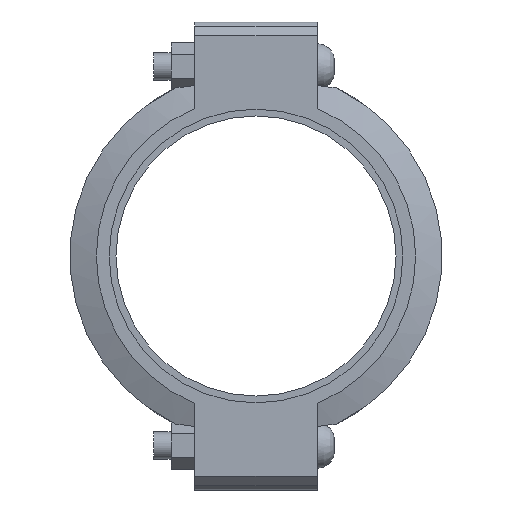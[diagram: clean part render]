
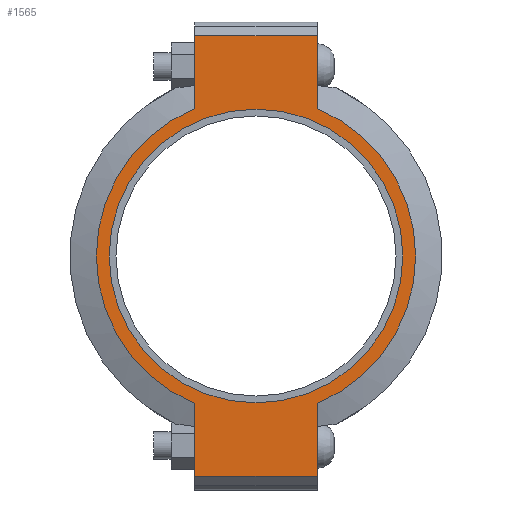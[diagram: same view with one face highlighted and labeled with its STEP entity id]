
A CAD part, left-side view. The second image highlights one B-rep face of the part: STEP entity #1565.
In plain terms, the highlighted planar face has unit normal (-1, 0, 0) as drawn and (0, 0, 1) by its records, which use the part's own axes.
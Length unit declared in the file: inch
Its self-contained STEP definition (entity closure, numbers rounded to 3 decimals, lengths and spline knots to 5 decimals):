
#136=LINE('',#2703,#225);
#147=LINE('',#2754,#236);
#153=LINE('',#2780,#242);
#155=LINE('',#2783,#244);
#156=LINE('',#2788,#245);
#157=LINE('',#2789,#246);
#225=VECTOR('',#2211,0.3937);
#236=VECTOR('',#2242,0.3937);
#242=VECTOR('',#2260,0.3937);
#244=VECTOR('',#2264,0.3937);
#245=VECTOR('',#2269,0.3937);
#246=VECTOR('',#2270,0.3937);
#308=FACE_BOUND('',#485,.T.);
#376=FACE_OUTER_BOUND('',#484,.T.);
#484=EDGE_LOOP('',(#1260,#1261,#1262,#1263,#1264,#1265,#1266,#1267));
#485=EDGE_LOOP('',(#1268));
#567=CIRCLE('',#1793,5.375);
#591=CIRCLE('',#1845,5.845);
#592=CIRCLE('',#1846,5.845);
#663=VERTEX_POINT('',#2529);
#704=VERTEX_POINT('',#2700);
#705=VERTEX_POINT('',#2702);
#722=VERTEX_POINT('',#2749);
#723=VERTEX_POINT('',#2753);
#730=VERTEX_POINT('',#2775);
#731=VERTEX_POINT('',#2779);
#732=VERTEX_POINT('',#2785);
#733=VERTEX_POINT('',#2787);
#827=EDGE_CURVE('',#663,#663,#567,.T.);
#884=EDGE_CURVE('',#705,#704,#136,.T.);
#905=EDGE_CURVE('',#723,#722,#147,.T.);
#916=EDGE_CURVE('',#731,#730,#153,.T.);
#918=EDGE_CURVE('',#731,#704,#155,.T.);
#919=EDGE_CURVE('',#730,#732,#591,.T.);
#920=EDGE_CURVE('',#732,#733,#156,.T.);
#921=EDGE_CURVE('',#723,#733,#157,.T.);
#922=EDGE_CURVE('',#722,#705,#592,.T.);
#1260=ORIENTED_EDGE('',*,*,#918,.F.);
#1261=ORIENTED_EDGE('',*,*,#916,.T.);
#1262=ORIENTED_EDGE('',*,*,#919,.T.);
#1263=ORIENTED_EDGE('',*,*,#920,.T.);
#1264=ORIENTED_EDGE('',*,*,#921,.F.);
#1265=ORIENTED_EDGE('',*,*,#905,.T.);
#1266=ORIENTED_EDGE('',*,*,#922,.T.);
#1267=ORIENTED_EDGE('',*,*,#884,.T.);
#1268=ORIENTED_EDGE('',*,*,#827,.T.);
#1405=PLANE('',#1844);
#1565=ADVANCED_FACE('',(#376,#308),#1405,.T.);
#1793=AXIS2_PLACEMENT_3D('',#2531,#2101,#2102);
#1844=AXIS2_PLACEMENT_3D('',#2784,#2265,#2266);
#1845=AXIS2_PLACEMENT_3D('',#2786,#2267,#2268);
#1846=AXIS2_PLACEMENT_3D('',#2790,#2271,#2272);
#2101=DIRECTION('center_axis',(0.,0.,-1.));
#2102=DIRECTION('ref_axis',(-1.,0.,0.));
#2211=DIRECTION('',(-1.,0.,0.));
#2242=DIRECTION('',(-1.,0.,0.));
#2260=DIRECTION('',(1.,0.,0.));
#2264=DIRECTION('',(0.,1.,0.));
#2265=DIRECTION('center_axis',(0.,0.,1.));
#2266=DIRECTION('ref_axis',(1.,0.,0.));
#2267=DIRECTION('center_axis',(0.,0.,1.));
#2268=DIRECTION('ref_axis',(-1.,0.,0.));
#2269=DIRECTION('',(1.,0.,0.));
#2270=DIRECTION('',(0.,-1.,0.));
#2271=DIRECTION('center_axis',(0.,0.,1.));
#2272=DIRECTION('ref_axis',(-1.,0.,0.));
#2529=CARTESIAN_POINT('',(5.375,0.,1.315));
#2531=CARTESIAN_POINT('Origin',(0.,0.,1.315));
#2700=CARTESIAN_POINT('',(-8.065,2.25,1.315));
#2702=CARTESIAN_POINT('',(-5.39458,2.25,1.315));
#2703=CARTESIAN_POINT('',(8.565,2.25,1.315));
#2749=CARTESIAN_POINT('',(5.39458,2.25,1.315));
#2753=CARTESIAN_POINT('',(8.065,2.25,1.315));
#2754=CARTESIAN_POINT('',(8.565,2.25,1.315));
#2775=CARTESIAN_POINT('',(-5.39458,-2.25,1.315));
#2779=CARTESIAN_POINT('',(-8.065,-2.25,1.315));
#2780=CARTESIAN_POINT('',(-8.565,-2.25,1.315));
#2783=CARTESIAN_POINT('',(-8.065,1.125,1.315));
#2784=CARTESIAN_POINT('Origin',(0.,0.,
1.315));
#2785=CARTESIAN_POINT('',(5.39458,-2.25,1.315));
#2786=CARTESIAN_POINT('Origin',(0.,0.,1.315));
#2787=CARTESIAN_POINT('',(8.065,-2.25,1.315));
#2788=CARTESIAN_POINT('',(-8.565,-2.25,1.315));
#2789=CARTESIAN_POINT('',(8.065,-1.125,1.315));
#2790=CARTESIAN_POINT('Origin',(0.,0.,1.315));
